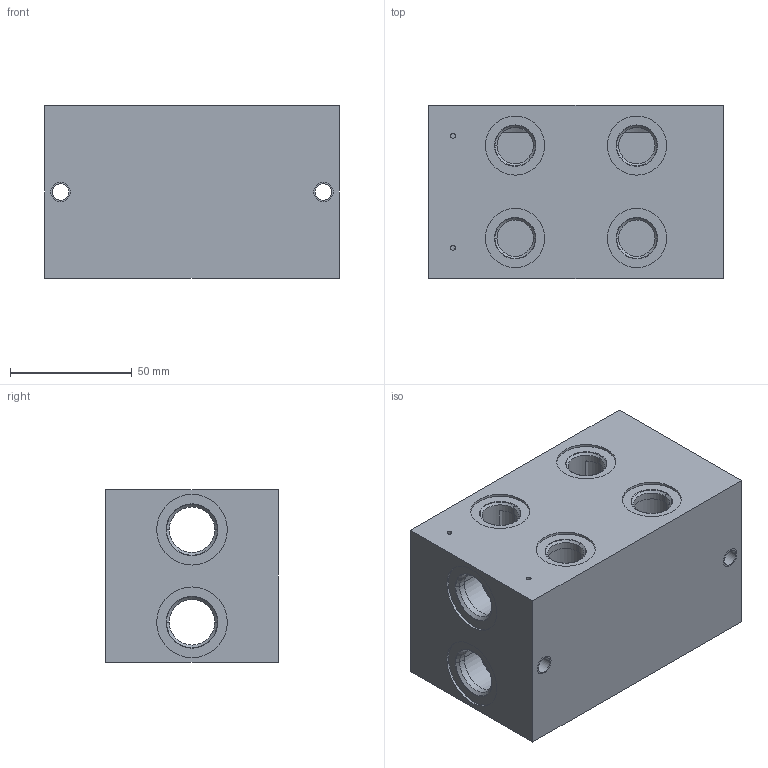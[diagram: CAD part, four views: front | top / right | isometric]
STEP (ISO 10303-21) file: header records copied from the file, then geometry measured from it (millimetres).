
FILE_DESCRIPTION((''),'2;1');
FILE_NAME('27562700','2015-11-27T',('Ahcz.brigadnik05'),(''),'PRO/ENGINEER BY PARAMETRIC TECHNOLOGY CORPORATION, 2015110','PRO/ENGINEER BY PARAMETRIC TECHNOLOGY CORPORATION, 2015110','');
FILE_SCHEMA(('AUTOMOTIVE_DESIGN { 1 0 10303 214 1 1 1 1 }'));
Length unit declared in the file: millimetre
Products named in the file (1): 27562700
Bounding box: 121 x 71 x 71 mm (x, y, z)
Volume: 215160.9 mm3; surface area: 89663.3 mm2
Topology: 1 solids, 23 shells, 200 faces, 766 edges, 719 vertices
Faces by surface type: cylinder 130, plane 46, cone 24
Entity records: 11122 total; most frequent: CARTESIAN_POINT 2035, DIRECTION 1442, ORIENTED_EDGE 1004, PRESENTATION_STYLE_ASSIGNMENT 813, STYLED_ITEM 813, CURVE_STYLE 784, EDGE_CURVE 546, AXIS2_PLACEMENT_3D 513
